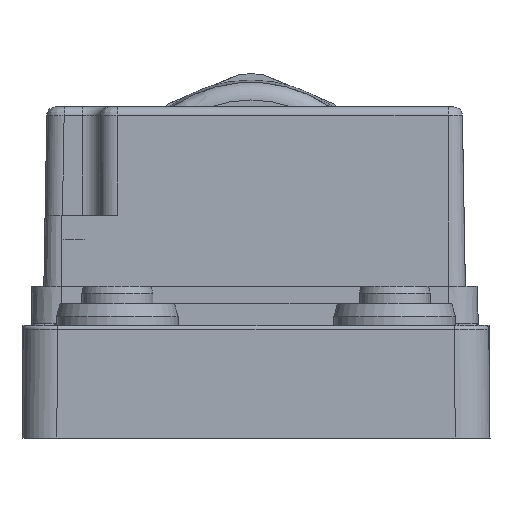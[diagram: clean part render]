
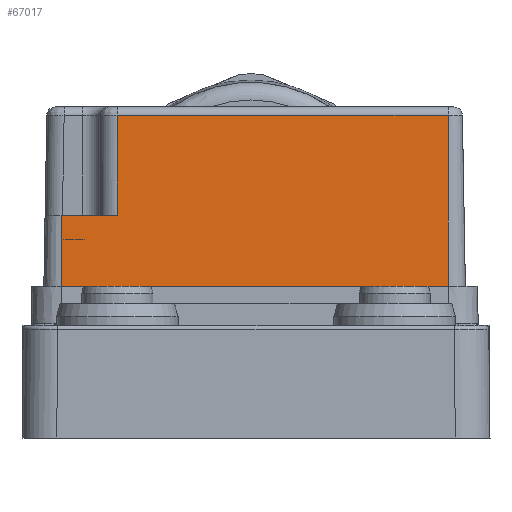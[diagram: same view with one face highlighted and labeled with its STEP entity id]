
A CAD part, left-side view. The second image highlights one B-rep face of the part: STEP entity #67017.
In plain terms, the highlighted planar face has unit normal (-1, 0, 0.018) as drawn and (0, 1, -0.017) by its records, which use the part's own axes.
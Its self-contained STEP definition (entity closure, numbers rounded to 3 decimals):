
#66208=CARTESIAN_POINT('',(22.747,17.512,-4.5));
#66209=VERTEX_POINT('',#66208);
#66217=CARTESIAN_POINT('',(-21.907,17.512,-4.5));
#66218=VERTEX_POINT('',#66217);
#66219=CARTESIAN_POINT('',(22.747,17.512,-4.5));
#66220=DIRECTION('',(-1.0,0.0,0.0));
#66221=VECTOR('',#66220,44.654);
#66222=LINE('',#66219,#66221);
#66223=EDGE_CURVE('',#66209,#66218,#66222,.T.);
#66636=CARTESIAN_POINT('',(-15.402,17.168,-24.217));
#66637=VERTEX_POINT('',#66636);
#66679=CARTESIAN_POINT('',(-15.402,17.369,-12.7));
#66680=VERTEX_POINT('',#66679);
#66688=CARTESIAN_POINT('',(-15.402,17.369,-12.7));
#66689=DIRECTION('',(0.0,-0.017,-1.));
#66690=VECTOR('',#66689,11.519);
#66691=LINE('',#66688,#66690);
#66692=EDGE_CURVE('',#66680,#66637,#66691,.T.);
#66835=CARTESIAN_POINT('',(22.747,17.168,-24.217));
#66836=VERTEX_POINT('',#66835);
#66862=CARTESIAN_POINT('',(-15.402,17.168,-24.217));
#66863=DIRECTION('',(1.0,0.0,0.0));
#66864=VECTOR('',#66863,38.148);
#66865=LINE('',#66862,#66864);
#66866=EDGE_CURVE('',#66637,#66836,#66865,.T.);
#66981=CARTESIAN_POINT('',(22.747,17.512,-4.5));
#66982=DIRECTION('',(0.0,-0.017,-1.));
#66983=VECTOR('',#66982,19.72);
#66984=LINE('',#66981,#66983);
#66985=EDGE_CURVE('',#66209,#66836,#66984,.T.);
#66992=CARTESIAN_POINT('',(22.747,17.512,-4.5));
#66993=DIRECTION('',(0.,1.,-0.017));
#66994=DIRECTION('',(1.0,0.0,0.0));
#66995=AXIS2_PLACEMENT_3D('',#66992,#66993,#66994);
#66996=PLANE('',#66995);
#66997=ORIENTED_EDGE('',*,*,#66866,.F.);
#66998=ORIENTED_EDGE('',*,*,#66692,.F.);
#66999=CARTESIAN_POINT('',(-21.907,17.369,-12.7));
#67000=VERTEX_POINT('',#66999);
#67001=CARTESIAN_POINT('',(-21.907,17.369,-12.7));
#67002=DIRECTION('',(1.0,0.0,0.0));
#67003=VECTOR('',#67002,6.505);
#67004=LINE('',#67001,#67003);
#67005=EDGE_CURVE('',#67000,#66680,#67004,.T.);
#67006=ORIENTED_EDGE('',*,*,#67005,.F.);
#67007=CARTESIAN_POINT('',(-21.907,17.512,-4.5));
#67008=DIRECTION('',(0.0,-0.017,-1.));
#67009=VECTOR('',#67008,8.201);
#67010=LINE('',#67007,#67009);
#67011=EDGE_CURVE('',#66218,#67000,#67010,.T.);
#67012=ORIENTED_EDGE('',*,*,#67011,.F.);
#67013=ORIENTED_EDGE('',*,*,#66223,.F.);
#67014=ORIENTED_EDGE('',*,*,#66985,.T.);
#67015=EDGE_LOOP('',(#66997,#66998,#67006,#67012,#67013,#67014));
#67016=FACE_OUTER_BOUND('',#67015,.T.);
#67017=ADVANCED_FACE('',(#67016),#66996,.T.);
